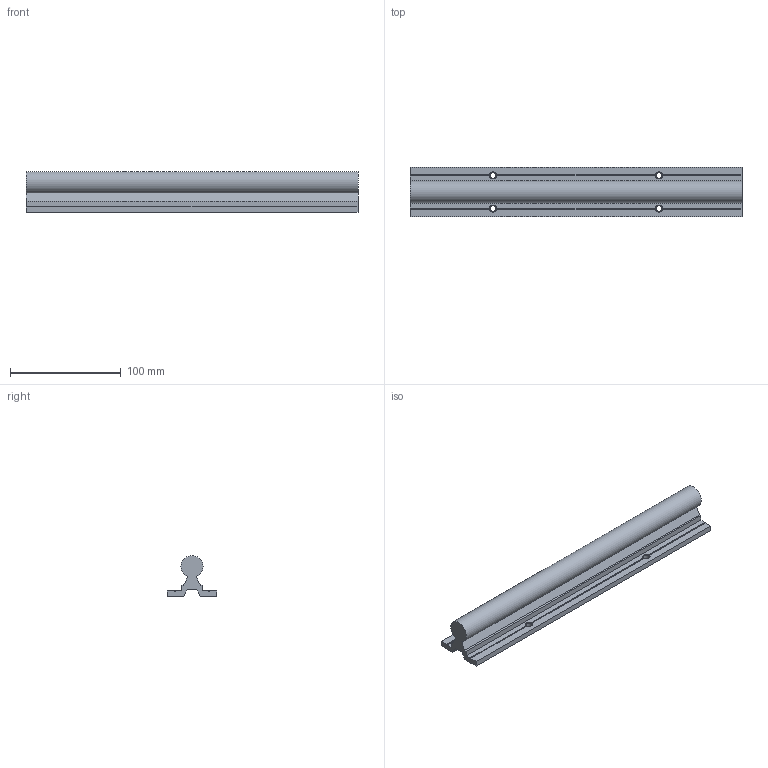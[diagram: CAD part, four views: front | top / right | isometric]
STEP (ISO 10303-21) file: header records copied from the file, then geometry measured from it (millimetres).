
FILE_DESCRIPTION(/* description */ (''),/* implementation_level */ '2;1');
FILE_NAME(/* name */ 'C:\Users\David\Desktop\stepFiles\Profilfuehrung\LFS20x300.stp',/* time_stamp */ '2018-06-24T15:21:50+02:00',/* author */ ('Buskamp'),/* organization */ (''),/* preprocessor_version */ 'ST-DEVELOPER v17',/* originating_system */ 'Autodesk Inventor 2019',/* authorisation */ '');
FILE_SCHEMA (('AUTOMOTIVE_DESIGN { 1 0 10303 214 3 1 1 }'));
Length unit declared in the file: millimetre
Products named in the file (1): Linearführung D20xvariabel
Bounding box: 300 x 45 x 37 mm (x, y, z)
Volume: 193828.4 mm3; surface area: 54254 mm2
Topology: 1 solids, 1 shells, 50 faces, 144 edges, 92 vertices
Faces by surface type: plane 37, cone 8, cylinder 5
Full cylindrical faces by diameter (mm): 5.5 x4
Entity records: 1669 total; most frequent: CARTESIAN_POINT 319, ORIENTED_EDGE 288, DIRECTION 268, EDGE_CURVE 144, VERTEX_POINT 92, LINE 90, VECTOR 90, AXIS2_PLACEMENT_3D 89
